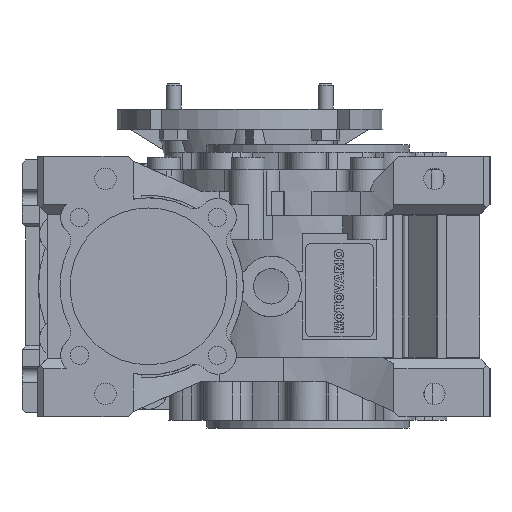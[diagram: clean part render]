
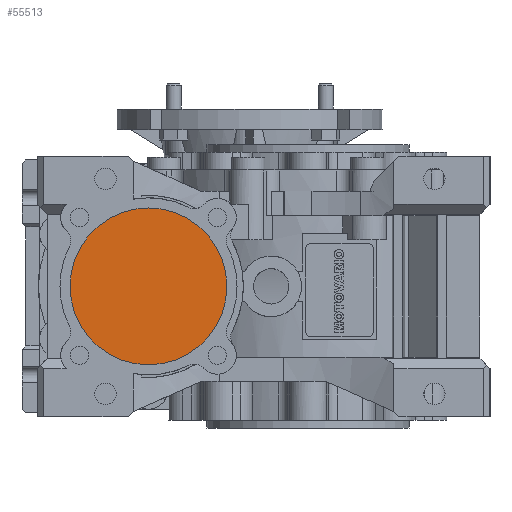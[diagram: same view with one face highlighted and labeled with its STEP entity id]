
A CAD part, left-side view. The second image highlights one B-rep face of the part: STEP entity #55513.
In plain terms, the highlighted planar face has unit normal (-1, 0, 0) as drawn and (0, 0, -1) by its records, which use the part's own axes.
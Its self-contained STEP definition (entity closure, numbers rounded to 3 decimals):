
#813=PLANE('',#58681);
#2534=CIRCLE('',#58680,31.);
#8236=ORIENTED_EDGE('',*,*,#18399,.F.);
#18399=EDGE_CURVE('',#23678,#23678,#2534,.T.);
#23678=VERTEX_POINT('',#79161);
#33971=EDGE_LOOP('',(#8236));
#36670=FACE_BOUND('',#33971,.T.);
#55513=ADVANCED_FACE('',(#36670),#813,.T.);
#58680=AXIS2_PLACEMENT_3D('',#79160,#65905,#65906);
#58681=AXIS2_PLACEMENT_3D('',#79162,#65907,#65908);
#65905=DIRECTION('',(0.,0.,1.));
#65906=DIRECTION('',(1.,0.,0.));
#65907=DIRECTION('',(0.,0.,-1.));
#65908=DIRECTION('',(-1.,0.,0.));
#79160=CARTESIAN_POINT('',(0.,63.,-70.5));
#79161=CARTESIAN_POINT('',(31.,63.,-70.5));
#79162=CARTESIAN_POINT('',(31.,63.,-70.5));
